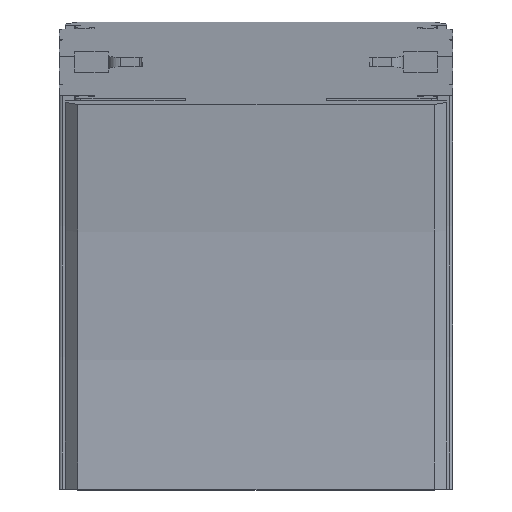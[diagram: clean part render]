
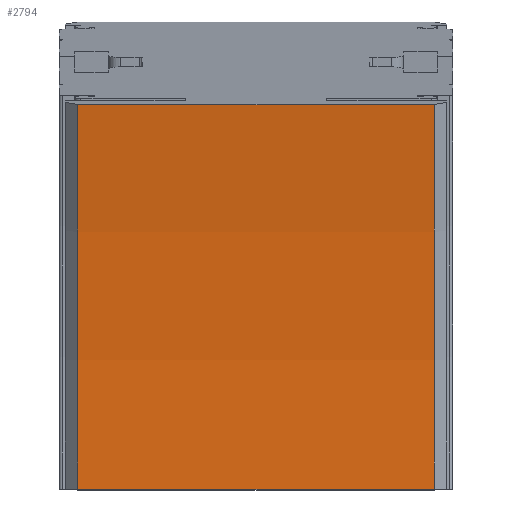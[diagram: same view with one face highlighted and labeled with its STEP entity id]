
A CAD part, top view. The second image highlights one B-rep face of the part: STEP entity #2794.
In plain terms, the highlighted cylindrical face has radius 360 mm (diameter 720 mm), a partial arc.
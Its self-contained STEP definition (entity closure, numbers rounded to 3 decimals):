
#88=CYLINDRICAL_SURFACE('',#3073,360.);
#298=CIRCLE('',#3072,360.);
#299=CIRCLE('',#3074,360.);
#463=FACE_OUTER_BOUND('',#617,.T.);
#617=EDGE_LOOP('',(#2255,#2256,#2257,#2258));
#805=LINE('',#9301,#1011);
#806=LINE('',#9303,#1012);
#1011=VECTOR('',#3758,10.);
#1012=VECTOR('',#3759,10.);
#1277=VERTEX_POINT('',#9294);
#1278=VERTEX_POINT('',#9296);
#1279=VERTEX_POINT('',#9300);
#1280=VERTEX_POINT('',#9302);
#1665=EDGE_CURVE('',#1277,#1278,#298,.T.);
#1666=EDGE_CURVE('',#1279,#1277,#805,.T.);
#1667=EDGE_CURVE('',#1280,#1278,#806,.T.);
#1668=EDGE_CURVE('',#1279,#1280,#299,.T.);
#2255=ORIENTED_EDGE('',*,*,#1666,.T.);
#2256=ORIENTED_EDGE('',*,*,#1665,.T.);
#2257=ORIENTED_EDGE('',*,*,#1667,.F.);
#2258=ORIENTED_EDGE('',*,*,#1668,.F.);
#2794=ADVANCED_FACE('',(#463),#88,.F.);
#3072=AXIS2_PLACEMENT_3D('',#9298,#3754,#3755);
#3073=AXIS2_PLACEMENT_3D('',#9299,#3756,#3757);
#3074=AXIS2_PLACEMENT_3D('',#9304,#3760,#3761);
#3754=DIRECTION('center_axis',(1.,0.,0.));
#3755=DIRECTION('ref_axis',(0.,0.,-1.));
#3756=DIRECTION('center_axis',(1.,0.,0.));
#3757=DIRECTION('ref_axis',(0.,0.,-1.));
#3758=DIRECTION('',(1.,0.,0.));
#3759=DIRECTION('',(1.,0.,0.));
#3760=DIRECTION('center_axis',(1.,0.,0.));
#3761=DIRECTION('ref_axis',(0.,0.,-1.));
#9294=CARTESIAN_POINT('',(29.,0.,40.));
#9296=CARTESIAN_POINT('',(29.,62.513,45.469));
#9298=CARTESIAN_POINT('Origin',(29.,0.,
400.));
#9299=CARTESIAN_POINT('Origin',(-14.5,0.,400.));
#9300=CARTESIAN_POINT('',(-29.,0.,40.));
#9301=CARTESIAN_POINT('',(-29.,0.,40.));
#9302=CARTESIAN_POINT('',(-29.,62.513,45.469));
#9303=CARTESIAN_POINT('',(-29.,62.513,45.469));
#9304=CARTESIAN_POINT('Origin',(-29.,0.,
400.));
